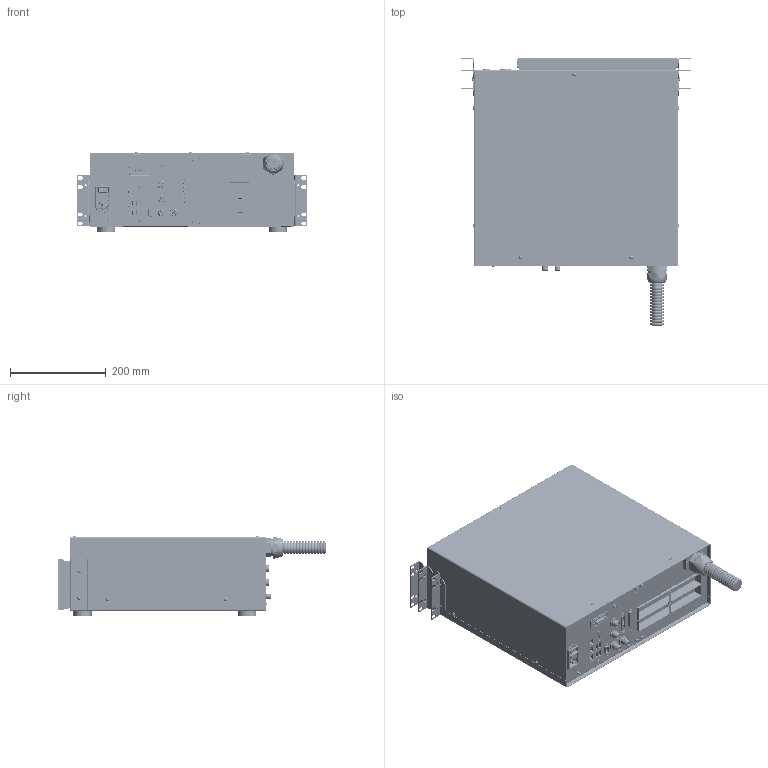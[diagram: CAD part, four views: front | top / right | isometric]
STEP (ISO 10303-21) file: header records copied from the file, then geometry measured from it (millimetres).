
FILE_DESCRIPTION(/* description */ (''),/* implementation_level */ '2;1');
FILE_NAME(/* name */ 'DSD-1271_STEP-20260224.stp',/* time_stamp */ '2026-02-24T14:09:41+01:00',/* author */ (''),/* organization */ (''),/* preprocessor_version */ 'ST-DEVELOPER v20',/* originating_system */ 'SIEMENS PLM Software NX2412.8701',/* authorisation */ '');
FILE_SCHEMA (('AUTOMOTIVE_DESIGN { 1 0 10303 214 3 1 1 1 }'));
Products named in the file (1): AS009158_01 for step 20260224_objects
Bounding box: 480 x 557.62 x 167.7 mm (x, y, z)
Volume: 27417555.9 mm3; surface area: 947260.9 mm2
Topology: 7 solids, 46 shells, 7444 faces, 19060 edges, 12378 vertices
Faces by surface type: plane 4480, cylinder 2095, cone 320, torus 193, bspline 168, extrusion 127, sphere 61
Full cylindrical faces by diameter (mm): 0.12 x1, 0.156 x1, 0.8 x16, 0.9 x8, 1 x41, 1.1 x4, 1.2 x1, 1.4 x8, 1.6 x4, 2.5 x2, 2.6 x6, 3 x416, 3.838 x7, 4 x12, 4.2 x12, 4.5 x24, 4.7 x1, 4.9 x2, 5 x2, 5.41 x3, 5.5 x6, 5.7 x2, 6.5 x2, 7 x10, 8.2 x2, 8.3 x2, 8.74 x4, 10 x5, 10.4 x4, 10.5 x2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
Entity records: 272329 total; most frequent: CARTESIAN_POINT 49957, DIRECTION 35434, ORIENTED_EDGE 35068, EDGE_CURVE 17534, VECTOR 11948, VERTEX_POINT 11855, LINE 11821, AXIS2_PLACEMENT_3D 11743
